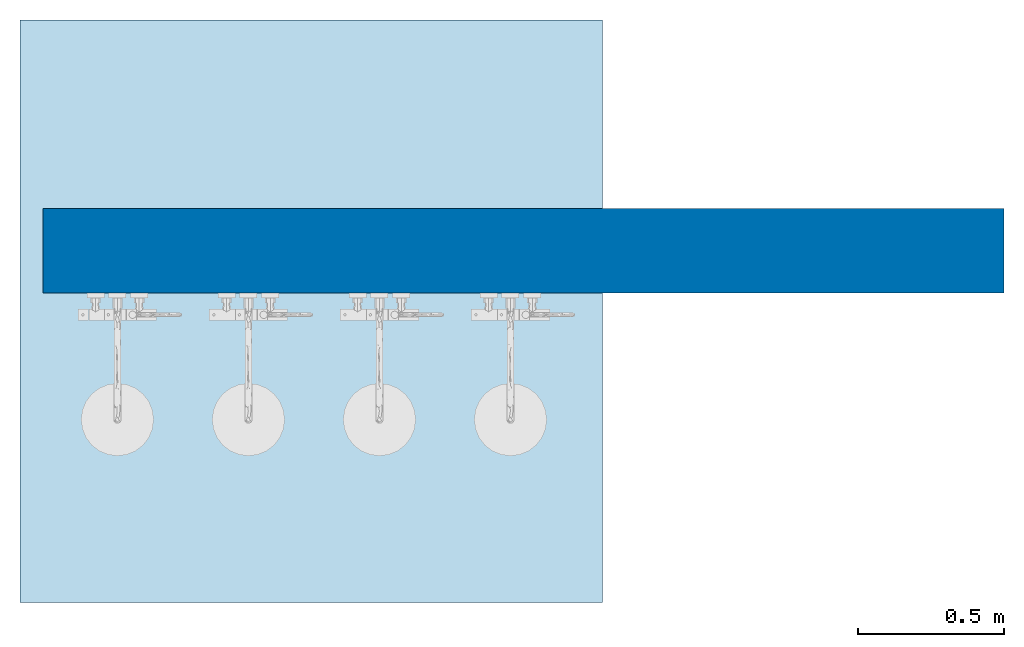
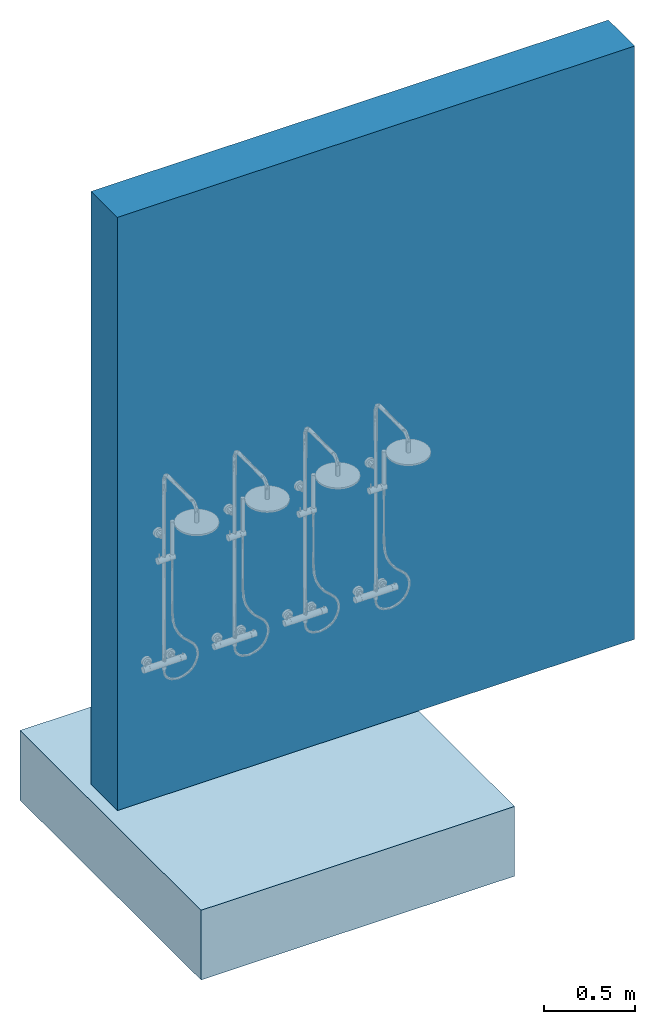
# One storey, incomplete: 1 slab, 1 wall.
"""IFC2X3 building model written with IfcOpenShell, lengths in millimetres."""

from ifc_helpers import new_model, entity, si_unit, converted_unit, derived_unit, direction, frame, frame_2d, origin, origin_2d_with_axis, place, context, subcontext, project, spatial, rectangle, extrude, material, layer, layer_set, layer_usage, type_object, element, save


model = new_model("IFC2X3")

# Units and contexts
model_context = context("Model", 3, precision=0.01, world=origin(), true_north=direction((6.12303176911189e-17, 1.0)))
body_context = subcontext(model_context, "Body", "Model", "MODEL_VIEW")
ifc_project = project(units=[si_unit("LENGTHUNIT", "METRE", prefix="MILLI"), si_unit("AREAUNIT", "SQUARE_METRE"), si_unit("VOLUMEUNIT", "CUBIC_METRE"), converted_unit("PLANEANGLEUNIT", "DEGREE", entity("IfcRatioMeasure", 0.0174532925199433), si_unit("PLANEANGLEUNIT", "RADIAN"), dimensions=[0, 0, 0, 0, 0, 0, 0]), si_unit("MASSUNIT", "GRAM", prefix="KILO"), derived_unit("MASSDENSITYUNIT", [(si_unit("MASSUNIT", "GRAM", prefix="KILO"), 1), (si_unit("LENGTHUNIT", "METRE"), -3)]), si_unit("TIMEUNIT", "SECOND"), si_unit("FREQUENCYUNIT", "HERTZ"), si_unit("THERMODYNAMICTEMPERATUREUNIT", "DEGREE_CELSIUS"), derived_unit("THERMALTRANSMITTANCEUNIT", [(si_unit("MASSUNIT", "GRAM", prefix="KILO"), 1), (si_unit("THERMODYNAMICTEMPERATUREUNIT", "KELVIN"), -1), (si_unit("TIMEUNIT", "SECOND"), -3)]), derived_unit("VOLUMETRICFLOWRATEUNIT", [(si_unit("LENGTHUNIT", "METRE"), 3), (si_unit("TIMEUNIT", "SECOND"), -1)]), si_unit("ELECTRICCURRENTUNIT", "AMPERE"), si_unit("ELECTRICVOLTAGEUNIT", "VOLT"), si_unit("POWERUNIT", "WATT"), si_unit("FORCEUNIT", "NEWTON", prefix="KILO"), si_unit("ILLUMINANCEUNIT", "LUX"), si_unit("LUMINOUSFLUXUNIT", "LUMEN"), si_unit("LUMINOUSINTENSITYUNIT", "CANDELA"), derived_unit("USERDEFINED", [(si_unit("MASSUNIT", "GRAM", prefix="KILO"), -1), (si_unit("LENGTHUNIT", "METRE"), -2), (si_unit("TIMEUNIT", "SECOND"), 3), (si_unit("LUMINOUSFLUXUNIT", "LUMEN"), 1)]), derived_unit("LINEARVELOCITYUNIT", [(si_unit("LENGTHUNIT", "METRE"), 1), (si_unit("TIMEUNIT", "SECOND"), -1)]), si_unit("PRESSUREUNIT", "PASCAL"), derived_unit("USERDEFINED", [(si_unit("LENGTHUNIT", "METRE"), -2), (si_unit("MASSUNIT", "GRAM", prefix="KILO"), 1), (si_unit("TIMEUNIT", "SECOND"), -2)])], contexts=[model_context])

# Site, building, storey
site_placement = place(None, origin())
site = spatial("IfcSite", under=ifc_project, at=site_placement, Name="Default", CompositionType="ELEMENT")
building_placement = place(site_placement, origin())
building = spatial("IfcBuilding", under=site, at=building_placement, Name="n/a", CompositionType="ELEMENT")
storey_placement = place(building_placement, origin())
storey = spatial("IfcBuildingStorey", under=building, at=storey_placement, Name="Level 0", CompositionType="ELEMENT", Elevation=0.0)

# Slab
ifc_material_1 = material(Name="Concrete, Sand/Cement Screed")
ifc_layer_1 = layer(ifc_material_1, 65.0)
ifc_material_2 = material(Name="Rigid insulation")
ifc_layer_2 = layer(ifc_material_2, 80.0)
ifc_material_3 = material(Name="Air")
ifc_layer_3 = layer(ifc_material_3, 150.0)
ifc_material_4 = material(Name="Concrete Masonry, Floor Block")
ifc_layer_4 = layer(ifc_material_4, 100.0)
ifc_material_5 = material(Name="Concrete, Precast")
ifc_layer_5 = layer(ifc_material_5, 75.0)
ifc_layer_set_1 = layer_set([ifc_layer_1, ifc_layer_2, ifc_layer_3, ifc_layer_4, ifc_layer_5], Name="Floor:Floor-Grnd-Susp_65Scr-80Ins-100Blk-75PC")
ifc_layer_usage_1 = layer_usage(ifc_layer_set_1, "AXIS3", "POSITIVE", 0.0)
slab_type = type_object("IfcSlabType", Name="Floor:Floor-Grnd-Susp_65Scr-80Ins-100Blk-75PC", PredefinedType="FLOOR", material=ifc_layer_set_1)
slab_placement = place(storey_placement, origin())
element("IfcSlab", 1, at=slab_placement, inside=storey, type_object=slab_type, material=ifc_layer_usage_1, Name="Floor:Floor-Grnd-Susp_65Scr-80Ins-100Blk-75PC", ObjectType="Floor:Floor-Grnd-Susp_65Scr-80Ins-100Blk-75PC", PredefinedType="FLOOR", context=body_context, shape_type="SweptSolid", body=[
    extrude(rectangle(XDim=2000.0, YDim=2000.0, at=origin_2d_with_axis()), frame((2617.89542022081, 511.02004687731, 0.0), z_axis=(0.0, 0.0, -1.0), x_axis=(0.0, 1.0, 0.0)), (0.0, 0.0, 1.0), 470.0),
])

# Wall
ifc_material_6 = material(Name="Brick, Common")
ifc_layer_6 = layer(ifc_material_6, 102.5)
ifc_material_7 = material(Name="Fiberglass Batt")
ifc_layer_7 = layer(ifc_material_7, 75.0)
ifc_material_8 = material(Name="Concrete Masonry Units _Low Density")
ifc_layer_8 = layer(ifc_material_8, 100.0)
ifc_material_9 = material(Name="Plaster")
ifc_layer_9 = layer(ifc_material_9, 12.5)
ifc_layer_set_2 = layer_set([ifc_layer_6, ifc_layer_7, ifc_layer_8, ifc_layer_9], Name="Basic Wall:Wall-Ext_102Bwk-75Ins-100LBlk-12P")
ifc_layer_usage_2 = layer_usage(ifc_layer_set_2, "AXIS2", "NEGATIVE", 145.0)
wall_type = type_object("IfcWallType", Name="Basic Wall:Wall-Ext_102Bwk-75Ins-100LBlk-12P", PredefinedType="STANDARD", material=ifc_layer_set_2)
wall_placement = place(storey_placement, frame((1697.41721132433, 718.605434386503, 0.0)))
element("IfcWallStandardCase", 2, at=wall_placement, inside=storey, type_object=wall_type, material=ifc_layer_usage_2, Name="Basic Wall:Wall-Ext_102Bwk-75Ins-100LBlk-12P", ObjectType="Basic Wall:Wall-Ext_102Bwk-75Ins-100LBlk-12P", context=body_context, shape_type="SweptSolid", body=[
    extrude(rectangle(XDim=3300.0, YDim=290.0, at=frame_2d((1650.0, 2.8421709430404e-14), x_axis=(-1.0, 0.0))), origin(), (0.0, 0.0, 1.0), 4000.0),
])

save(model, "model.ifc")
